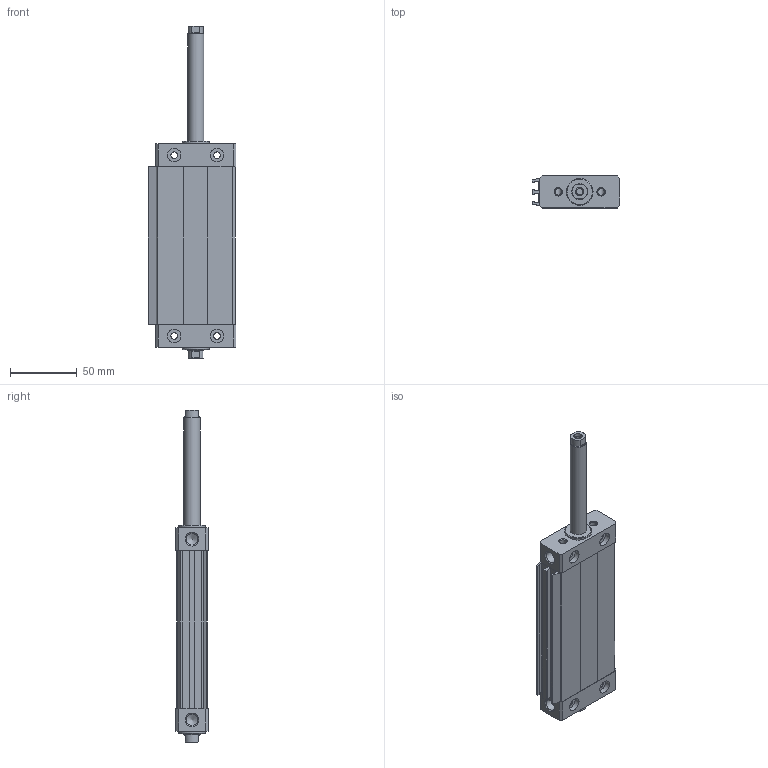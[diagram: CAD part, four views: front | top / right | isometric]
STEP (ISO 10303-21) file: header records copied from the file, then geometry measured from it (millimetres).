
FILE_DESCRIPTION((''),'2;1');
FILE_NAME('I:\Area Tecnica\Disegni\VARIE-3D\Componenti\1370 - CPO\1370_##_0000_03\1370_32_0080_03-01.iam.step','2010-12-16T10:54:43',(''),(''),'Autodesk Inventor 2011','Autodesk Inventor 2011','');
FILE_SCHEMA(('AUTOMOTIVE_DESIGN { 1 0 10303 214 1 1 1 1 }'));
Length unit declared in the file: millimetre
Products named in the file (5): 1370_32_0080_03-01; 1370_05_32_0000; 1370_06_32_0080; 1370_08_32_0000; 1370_3_32_0080
Assembly tree (4 placements, depth 2):
  1370_32_0080_03-01
    1370_05_32_0000
    1370_06_32_0080
    1370_08_32_0000
    1370_3_32_0080
Bounding box: 65.5 x 24 x 248 mm (x, y, z)
Volume: 163749.9 mm3; surface area: 70033.6 mm2
Topology: 4 solids, 4 shells, 164 faces, 392 edges, 250 vertices
Faces by surface type: plane 92, cylinder 48, cone 24
Full cylindrical faces by diameter (mm): 5 x12, 6.3 x2, 8.7 x2, 10 x8, 11.5 x2, 12 x4, 20 x2
Entity records: 4780 total; most frequent: DIRECTION 792, CARTESIAN_POINT 787, ORIENTED_EDGE 660, EDGE_CURVE 330, AXIS2_PLACEMENT_3D 297, EDGE_LOOP 252, VERTEX_POINT 240, VECTOR 198
